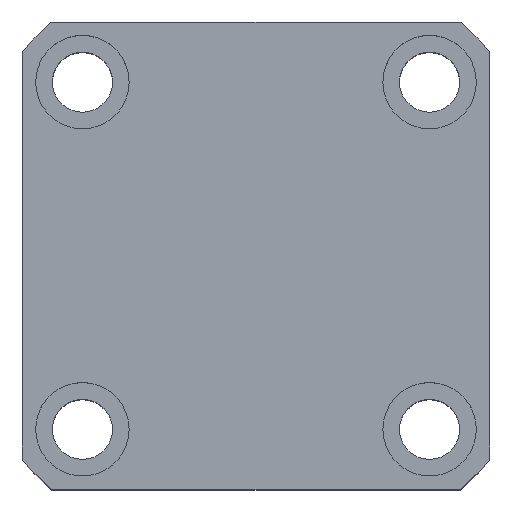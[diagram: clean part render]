
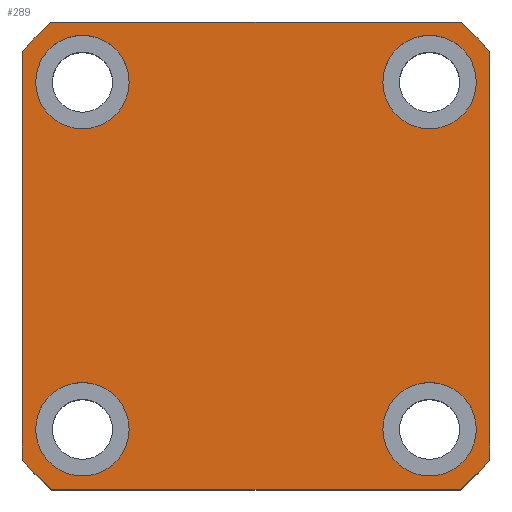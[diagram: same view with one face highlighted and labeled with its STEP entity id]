
A CAD part, top view. The second image highlights one B-rep face of the part: STEP entity #289.
In plain terms, the highlighted planar face has unit normal (0, 0, 1).
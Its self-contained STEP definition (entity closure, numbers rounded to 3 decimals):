
#10 = VERTEX_POINT ( 'NONE', #11454 ) ;
#12 = PLANE ( 'NONE',  #248 ) ;
#118 = AXIS2_PLACEMENT_3D ( 'NONE', #7481, #1175, #8547 ) ;
#129 = DIRECTION ( 'NONE',  ( 1., 0., 0. ) ) ;
#137 = DIRECTION ( 'NONE',  ( -1., 0., 0. ) ) ;
#176 = ORIENTED_EDGE ( 'NONE', *, *, #6217, .F. ) ;
#212 = AXIS2_PLACEMENT_3D ( 'NONE', #9479, #3140, #10564 ) ;
#218 = CARTESIAN_POINT ( 'NONE',  ( 0., 0., 60. ) ) ;
#248 = AXIS2_PLACEMENT_3D ( 'NONE', #9389, #6272, #13694 ) ;
#289 = ADVANCED_FACE ( 'NONE', ( #8244, #10427, #13227, #1979, #12884 ), #12, .T. ) ;
#464 = EDGE_CURVE ( 'NONE', #13218, #5741, #11892, .T. ) ;
#692 = VERTEX_POINT ( 'NONE', #12471 ) ;
#743 = EDGE_CURVE ( 'NONE', #9842, #1744, #11256, .T. ) ;
#799 = DIRECTION ( 'NONE',  ( 0., 0., 1. ) ) ;
#826 = CARTESIAN_POINT ( 'NONE',  ( -30.615, 35., 60. ) ) ;
#831 = CIRCLE ( 'NONE', #118, 7. ) ;
#962 = DIRECTION ( 'NONE',  ( 0., 0., 1. ) ) ;
#986 = EDGE_CURVE ( 'NONE', #9581, #10, #4623, .T. ) ;
#1175 = DIRECTION ( 'NONE',  ( 0., 0., 1. ) ) ;
#1217 = CARTESIAN_POINT ( 'NONE',  ( 30.615, 35., 60. ) ) ;
#1744 = VERTEX_POINT ( 'NONE', #826 ) ;
#1764 = ORIENTED_EDGE ( 'NONE', *, *, #986, .T. ) ;
#1788 = ORIENTED_EDGE ( 'NONE', *, *, #9696, .F. ) ;
#1811 = VECTOR ( 'NONE', #9142, 1000. ) ;
#1979 = FACE_BOUND ( 'NONE', #6556, .T. ) ;
#2067 = CARTESIAN_POINT ( 'NONE',  ( 0., 0., 60. ) ) ;
#2080 = CARTESIAN_POINT ( 'NONE',  ( -19., -26., 60. ) ) ;
#2103 = CARTESIAN_POINT ( 'NONE',  ( -26., -26., 60. ) ) ;
#2320 = CARTESIAN_POINT ( 'NONE',  ( 0., 0., 60. ) ) ;
#2394 = CARTESIAN_POINT ( 'NONE',  ( -26., 26., 60. ) ) ;
#2426 = DIRECTION ( 'NONE',  ( 0., 0., 1. ) ) ;
#2460 = AXIS2_PLACEMENT_3D ( 'NONE', #7107, #799, #8178 ) ;
#2615 = CIRCLE ( 'NONE', #4888, 7. ) ;
#2688 = ORIENTED_EDGE ( 'NONE', *, *, #4984, .T. ) ;
#2753 = EDGE_CURVE ( 'NONE', #8562, #9430, #4551, .T. ) ;
#2775 = CIRCLE ( 'NONE', #5864, 46.5 ) ;
#2806 = CARTESIAN_POINT ( 'NONE',  ( -35., 35., 60. ) ) ;
#3111 = DIRECTION ( 'NONE',  ( 1., 0., 0. ) ) ;
#3112 = AXIS2_PLACEMENT_3D ( 'NONE', #7267, #962, #8341 ) ;
#3140 = DIRECTION ( 'NONE',  ( 0., 0., 1. ) ) ;
#3156 = DIRECTION ( 'NONE',  ( 1., 0., 0. ) ) ;
#3378 = DIRECTION ( 'NONE',  ( 1., 0., 0. ) ) ;
#3460 = DIRECTION ( 'NONE',  ( 1., 0., 0. ) ) ;
#3769 = CIRCLE ( 'NONE', #212, 7. ) ;
#3950 = CARTESIAN_POINT ( 'NONE',  ( -30.615, -35., 60. ) ) ;
#4082 = CIRCLE ( 'NONE', #8247, 7. ) ;
#4410 = CARTESIAN_POINT ( 'NONE',  ( -19., 26., 60. ) ) ;
#4487 = EDGE_LOOP ( 'NONE', ( #11264, #6870 ) ) ;
#4491 = CARTESIAN_POINT ( 'NONE',  ( 30.615, -35., 60. ) ) ;
#4499 = AXIS2_PLACEMENT_3D ( 'NONE', #218, #6848, #10930 ) ;
#4551 = CIRCLE ( 'NONE', #9089, 7. ) ;
#4623 = LINE ( 'NONE', #2806, #1811 ) ;
#4765 = CIRCLE ( 'NONE', #10702, 7. ) ;
#4840 = CIRCLE ( 'NONE', #3112, 7. ) ;
#4888 = AXIS2_PLACEMENT_3D ( 'NONE', #8753, #2426, #9838 ) ;
#4971 = EDGE_CURVE ( 'NONE', #692, #4993, #4840, .T. ) ;
#4984 = EDGE_CURVE ( 'NONE', #5741, #11972, #12946, .T. ) ;
#4993 = VERTEX_POINT ( 'NONE', #7134 ) ;
#5072 = CARTESIAN_POINT ( 'NONE',  ( -26., -26., 60. ) ) ;
#5089 = ORIENTED_EDGE ( 'NONE', *, *, #464, .T. ) ;
#5175 = ORIENTED_EDGE ( 'NONE', *, *, #11363, .F. ) ;
#5220 = EDGE_LOOP ( 'NONE', ( #5231, #11455 ) ) ;
#5231 = ORIENTED_EDGE ( 'NONE', *, *, #6093, .F. ) ;
#5408 = ORIENTED_EDGE ( 'NONE', *, *, #6640, .T. ) ;
#5660 = CARTESIAN_POINT ( 'NONE',  ( 35., -30.615, 60. ) ) ;
#5741 = VERTEX_POINT ( 'NONE', #5660 ) ;
#5829 = AXIS2_PLACEMENT_3D ( 'NONE', #12771, #6443, #129 ) ;
#5864 = AXIS2_PLACEMENT_3D ( 'NONE', #2067, #9453, #3111 ) ;
#6093 = EDGE_CURVE ( 'NONE', #9430, #8562, #4082, .T. ) ;
#6118 = DIRECTION ( 'NONE',  ( 1., 0., 0. ) ) ;
#6217 = EDGE_CURVE ( 'NONE', #4993, #692, #3769, .T. ) ;
#6271 = VERTEX_POINT ( 'NONE', #8454 ) ;
#6272 = DIRECTION ( 'NONE',  ( 0., 0., 1. ) ) ;
#6285 = VERTEX_POINT ( 'NONE', #6353 ) ;
#6353 = CARTESIAN_POINT ( 'NONE',  ( 33., -26., 60. ) ) ;
#6443 = DIRECTION ( 'NONE',  ( 0., 0., 1. ) ) ;
#6556 = EDGE_LOOP ( 'NONE', ( #1788, #5175 ) ) ;
#6618 = ORIENTED_EDGE ( 'NONE', *, *, #12828, .T. ) ;
#6640 = EDGE_CURVE ( 'NONE', #10, #7564, #2775, .T. ) ;
#6666 = ORIENTED_EDGE ( 'NONE', *, *, #7426, .T. ) ;
#6848 = DIRECTION ( 'NONE',  ( 0., 0., 1. ) ) ;
#6870 = ORIENTED_EDGE ( 'NONE', *, *, #8055, .F. ) ;
#6935 = EDGE_CURVE ( 'NONE', #6285, #9676, #2615, .T. ) ;
#7107 = CARTESIAN_POINT ( 'NONE',  ( 0., 0., 60. ) ) ;
#7134 = CARTESIAN_POINT ( 'NONE',  ( 19., 26., 60. ) ) ;
#7255 = CARTESIAN_POINT ( 'NONE',  ( -33., -26., 60. ) ) ;
#7267 = CARTESIAN_POINT ( 'NONE',  ( 26., 26., 60. ) ) ;
#7304 = VECTOR ( 'NONE', #12532, 1000. ) ;
#7426 = EDGE_CURVE ( 'NONE', #11972, #9842, #8717, .T. ) ;
#7481 = CARTESIAN_POINT ( 'NONE',  ( -26., 26., 60. ) ) ;
#7564 = VERTEX_POINT ( 'NONE', #3950 ) ;
#7703 = CARTESIAN_POINT ( 'NONE',  ( -35., 30.615, 60. ) ) ;
#8055 = EDGE_CURVE ( 'NONE', #9676, #6285, #9063, .T. ) ;
#8065 = LINE ( 'NONE', #10209, #10237 ) ;
#8178 = DIRECTION ( 'NONE',  ( 1., 0., 0. ) ) ;
#8244 = FACE_BOUND ( 'NONE', #5220, .T. ) ;
#8247 = AXIS2_PLACEMENT_3D ( 'NONE', #5072, #12454, #6118 ) ;
#8341 = DIRECTION ( 'NONE',  ( 1., 0., 0. ) ) ;
#8400 = EDGE_CURVE ( 'NONE', #7564, #13218, #8065, .T. ) ;
#8454 = CARTESIAN_POINT ( 'NONE',  ( -33., 26., 60. ) ) ;
#8547 = DIRECTION ( 'NONE',  ( 1., 0., 0. ) ) ;
#8562 = VERTEX_POINT ( 'NONE', #7255 ) ;
#8619 = CARTESIAN_POINT ( 'NONE',  ( 35., 30.615, 60. ) ) ;
#8717 = CIRCLE ( 'NONE', #10647, 46.5 ) ;
#8739 = VERTEX_POINT ( 'NONE', #4410 ) ;
#8753 = CARTESIAN_POINT ( 'NONE',  ( 26., -26., 60. ) ) ;
#8909 = CARTESIAN_POINT ( 'NONE',  ( 19., -26., 60. ) ) ;
#9063 = CIRCLE ( 'NONE', #5829, 7. ) ;
#9089 = AXIS2_PLACEMENT_3D ( 'NONE', #2103, #9496, #3156 ) ;
#9142 = DIRECTION ( 'NONE',  ( 0., -1., 0. ) ) ;
#9389 = CARTESIAN_POINT ( 'NONE',  ( 0., 0., 60. ) ) ;
#9430 = VERTEX_POINT ( 'NONE', #2080 ) ;
#9453 = DIRECTION ( 'NONE',  ( 0., 0., 1. ) ) ;
#9479 = CARTESIAN_POINT ( 'NONE',  ( 26., 26., 60. ) ) ;
#9496 = DIRECTION ( 'NONE',  ( 0., 0., 1. ) ) ;
#9581 = VERTEX_POINT ( 'NONE', #7703 ) ;
#9676 = VERTEX_POINT ( 'NONE', #8909 ) ;
#9696 = EDGE_CURVE ( 'NONE', #8739, #6271, #831, .T. ) ;
#9716 = DIRECTION ( 'NONE',  ( 0., 0., 1. ) ) ;
#9810 = DIRECTION ( 'NONE',  ( 0., 0., 1. ) ) ;
#9838 = DIRECTION ( 'NONE',  ( 1., 0., 0. ) ) ;
#9842 = VERTEX_POINT ( 'NONE', #1217 ) ;
#10209 = CARTESIAN_POINT ( 'NONE',  ( -35., -35., 60. ) ) ;
#10237 = VECTOR ( 'NONE', #11284, 1000. ) ;
#10427 = FACE_BOUND ( 'NONE', #4487, .T. ) ;
#10564 = DIRECTION ( 'NONE',  ( 1., 0., 0. ) ) ;
#10647 = AXIS2_PLACEMENT_3D ( 'NONE', #2320, #9716, #3378 ) ;
#10702 = AXIS2_PLACEMENT_3D ( 'NONE', #2394, #9810, #3460 ) ;
#10758 = CARTESIAN_POINT ( 'NONE',  ( -35., 35., 60. ) ) ;
#10930 = DIRECTION ( 'NONE',  ( 1., 0., 0. ) ) ;
#11172 = ORIENTED_EDGE ( 'NONE', *, *, #4971, .F. ) ;
#11256 = LINE ( 'NONE', #10758, #13713 ) ;
#11264 = ORIENTED_EDGE ( 'NONE', *, *, #6935, .F. ) ;
#11284 = DIRECTION ( 'NONE',  ( 1., 0., 0. ) ) ;
#11363 = EDGE_CURVE ( 'NONE', #6271, #8739, #4765, .T. ) ;
#11454 = CARTESIAN_POINT ( 'NONE',  ( -35., -30.615, 60. ) ) ;
#11455 = ORIENTED_EDGE ( 'NONE', *, *, #2753, .F. ) ;
#11530 = CIRCLE ( 'NONE', #2460, 46.5 ) ;
#11892 = CIRCLE ( 'NONE', #4499, 46.5 ) ;
#11972 = VERTEX_POINT ( 'NONE', #8619 ) ;
#12239 = ORIENTED_EDGE ( 'NONE', *, *, #8400, .T. ) ;
#12335 = ORIENTED_EDGE ( 'NONE', *, *, #743, .T. ) ;
#12454 = DIRECTION ( 'NONE',  ( 0., 0., 1. ) ) ;
#12471 = CARTESIAN_POINT ( 'NONE',  ( 33., 26., 60. ) ) ;
#12532 = DIRECTION ( 'NONE',  ( 0., 1., 0. ) ) ;
#12771 = CARTESIAN_POINT ( 'NONE',  ( 26., -26., 60. ) ) ;
#12828 = EDGE_CURVE ( 'NONE', #1744, #9581, #11530, .T. ) ;
#12884 = FACE_OUTER_BOUND ( 'NONE', #12980, .T. ) ;
#12946 = LINE ( 'NONE', #13621, #7304 ) ;
#12980 = EDGE_LOOP ( 'NONE', ( #2688, #6666, #12335, #6618, #1764, #5408, #12239, #5089 ) ) ;
#13218 = VERTEX_POINT ( 'NONE', #4491 ) ;
#13227 = FACE_BOUND ( 'NONE', #13454, .T. ) ;
#13454 = EDGE_LOOP ( 'NONE', ( #11172, #176 ) ) ;
#13621 = CARTESIAN_POINT ( 'NONE',  ( 35., 35., 60. ) ) ;
#13694 = DIRECTION ( 'NONE',  ( 1., 0., 0. ) ) ;
#13713 = VECTOR ( 'NONE', #137, 1000. ) ;
